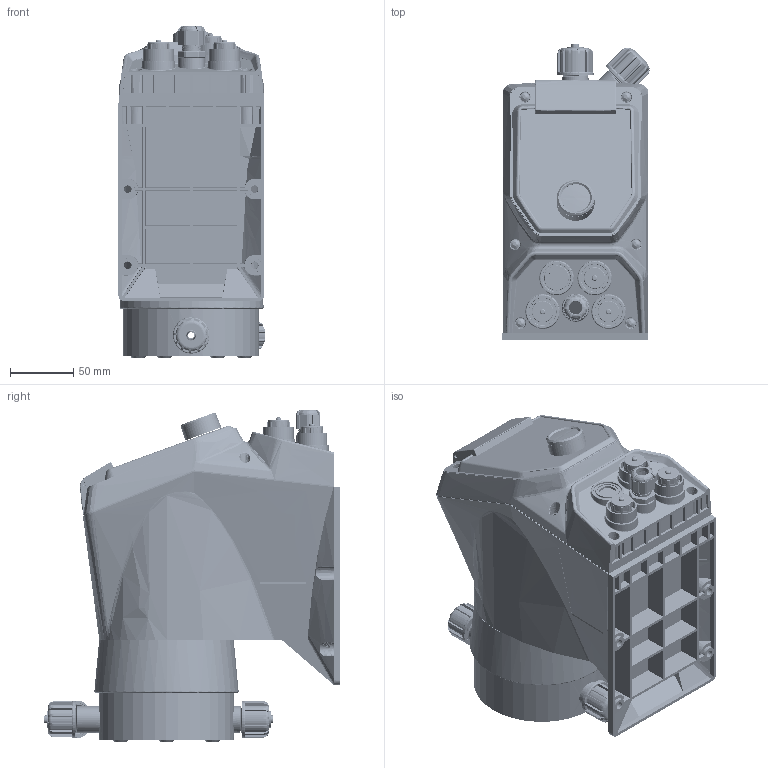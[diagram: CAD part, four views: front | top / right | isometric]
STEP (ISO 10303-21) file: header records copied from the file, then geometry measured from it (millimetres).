
FILE_DESCRIPTION (( 'STEP AP203' ), '1' );
FILE_NAME ('EMEC PRISMA 0720 PP EP SS.STEP', '2025-05-12T00:46:54', ( '' ), ( '' ), 'SwSTEP 2.0', 'SolidWorks 2020', '' );
FILE_SCHEMA (( 'CONFIG_CONTROL_DESIGN' ));
Products named in the file (1): EMEC PRISMA 0720 PP EP SS
Bounding box: 115.88 x 233.23 x 261.6 mm (x, y, z)
Volume: 755799.2 mm3; surface area: 626145.5 mm2
Topology: 90 solids, 96 shells, 6280 faces, 16181 edges, 10465 vertices
Faces by surface type: bspline 3055, plane 1477, cylinder 950, cone 555, torus 243
Entity records: 330148 total; most frequent: CARTESIAN_POINT 211070, ORIENTED_EDGE 32282, EDGE_CURVE 16141, DIRECTION 13467, VERTEX_POINT 10465, B_SPLINE_CURVE_WITH_KNOTS 8732, EDGE_LOOP 6884, ADVANCED_FACE 6280
